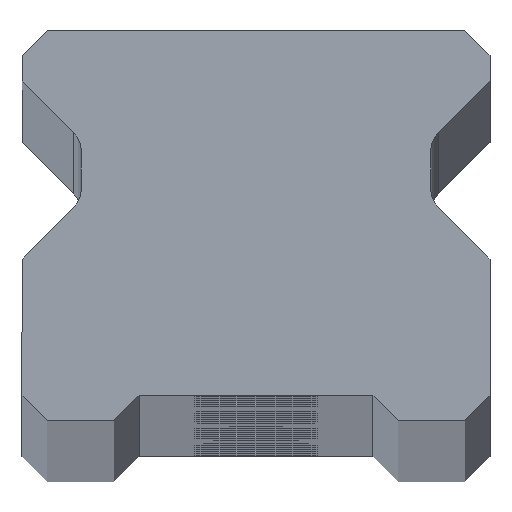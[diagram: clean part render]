
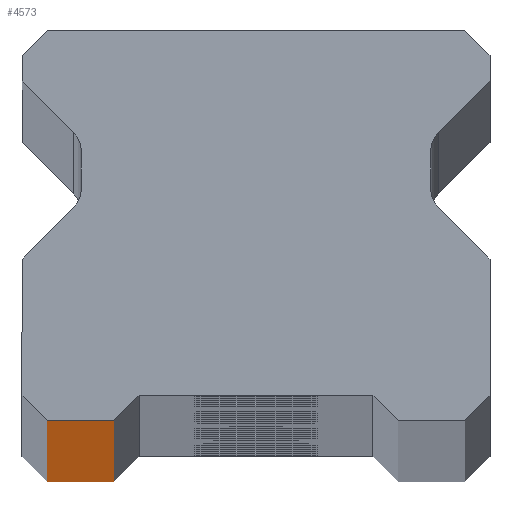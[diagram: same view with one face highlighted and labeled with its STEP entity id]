
A CAD part, top view. The second image highlights one B-rep face of the part: STEP entity #4573.
In plain terms, the highlighted planar face has unit normal (0, -1, 0).
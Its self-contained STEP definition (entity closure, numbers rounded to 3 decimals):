
#43 = CARTESIAN_POINT ( 'NONE',  ( -10.25, 0., -860. ) ) ;
#245 = VERTEX_POINT ( 'NONE', #1142 ) ;
#408 = VERTEX_POINT ( 'NONE', #2574 ) ;
#425 = VECTOR ( 'NONE', #1837, 1000. ) ;
#448 = ORIENTED_EDGE ( 'NONE', *, *, #1584, .T. ) ;
#758 = ORIENTED_EDGE ( 'NONE', *, *, #4105, .T. ) ;
#942 = VECTOR ( 'NONE', #2814, 1000. ) ;
#996 = LINE ( 'NONE', #1147, #2272 ) ;
#999 = AXIS2_PLACEMENT_3D ( 'NONE', #3697, #2253, #4673 ) ;
#1048 = ORIENTED_EDGE ( 'NONE', *, *, #3449, .T. ) ;
#1101 = LINE ( 'NONE', #6205, #425 ) ;
#1142 = CARTESIAN_POINT ( 'NONE',  ( -7., 0., 860. ) ) ;
#1147 = CARTESIAN_POINT ( 'NONE',  ( -10.25, 0., 860. ) ) ;
#1303 = PLANE ( 'NONE',  #999 ) ;
#1584 = EDGE_CURVE ( 'NONE', #3317, #408, #2296, .T. ) ;
#1837 = DIRECTION ( 'NONE',  ( 0., 0., 1. ) ) ;
#2091 = DIRECTION ( 'NONE',  ( 0., 0., -1. ) ) ;
#2133 = EDGE_LOOP ( 'NONE', ( #448, #758, #4462, #1048 ) ) ;
#2253 = DIRECTION ( 'NONE',  ( 0., 1., 0. ) ) ;
#2272 = VECTOR ( 'NONE', #2091, 1000. ) ;
#2296 = LINE ( 'NONE', #3799, #5616 ) ;
#2574 = CARTESIAN_POINT ( 'NONE',  ( -7., 0., -860. ) ) ;
#2814 = DIRECTION ( 'NONE',  ( 1., 0., 0. ) ) ;
#2858 = DIRECTION ( 'NONE',  ( 1., 0., 0. ) ) ;
#3317 = VERTEX_POINT ( 'NONE', #43 ) ;
#3449 = EDGE_CURVE ( 'NONE', #6200, #3317, #996, .T. ) ;
#3511 = LINE ( 'NONE', #4232, #942 ) ;
#3697 = CARTESIAN_POINT ( 'NONE',  ( 11.5, 0., 860. ) ) ;
#3799 = CARTESIAN_POINT ( 'NONE',  ( 11.5, 0., -860. ) ) ;
#4105 = EDGE_CURVE ( 'NONE', #408, #245, #1101, .T. ) ;
#4232 = CARTESIAN_POINT ( 'NONE',  ( 11.5, 0., 860. ) ) ;
#4462 = ORIENTED_EDGE ( 'NONE', *, *, #4696, .F. ) ;
#4476 = FACE_OUTER_BOUND ( 'NONE', #2133, .T. ) ;
#4573 = ADVANCED_FACE ( 'NONE', ( #4476 ), #1303, .F. ) ;
#4673 = DIRECTION ( 'NONE',  ( -1., 0., 0. ) ) ;
#4696 = EDGE_CURVE ( 'NONE', #6200, #245, #3511, .T. ) ;
#5108 = CARTESIAN_POINT ( 'NONE',  ( -10.25, 0., 860. ) ) ;
#5616 = VECTOR ( 'NONE', #2858, 1000. ) ;
#6200 = VERTEX_POINT ( 'NONE', #5108 ) ;
#6205 = CARTESIAN_POINT ( 'NONE',  ( -7., 0., -860. ) ) ;
